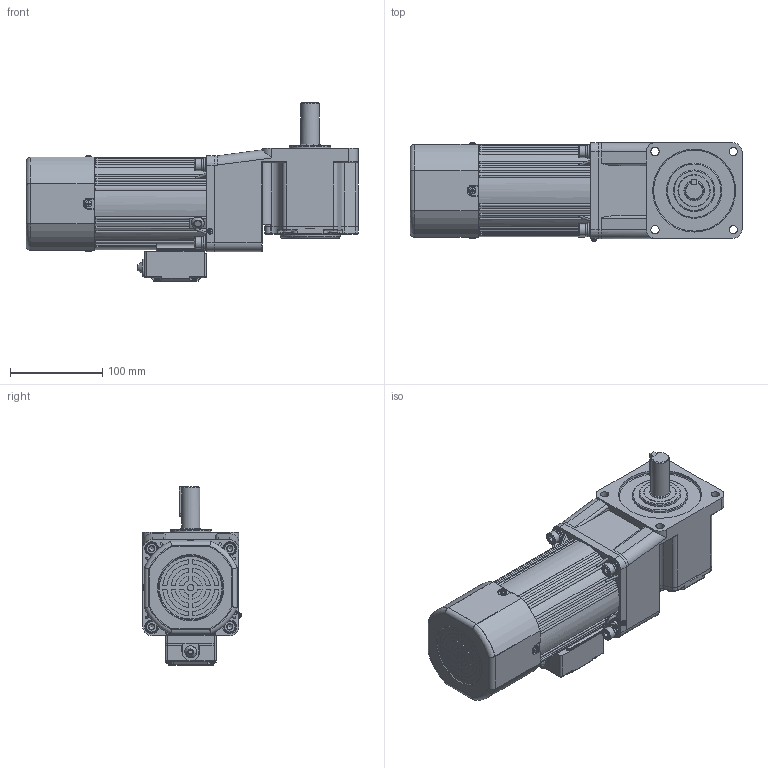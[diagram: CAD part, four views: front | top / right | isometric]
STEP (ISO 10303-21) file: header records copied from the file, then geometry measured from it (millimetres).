
FILE_DESCRIPTION(/* description */ (''),/* implementation_level */ '2;1');
FILE_NAME(/* name */ '100+直角中实-刹车调速风叶-160-250W 新版长款接线盒.stp',/* time_stamp */ '2025-04-07T20:04:43+08:00',/* author */ (''),/* organization */ (''),/* preprocessor_version */ 'ST-DEVELOPER v18.102',/* originating_system */ 'SIEMENS PLM Software NX 2027',/* authorisation */ '');
FILE_SCHEMA (('AP203_CONFIGURATION_CONTROLLED_3D_DESIGN_OF_MECHANICAL_PARTS_AND_ASSEMBLIES_MIM_LF { 1 0 10303 403 2 1 2}'));
Products named in the file (1): 100+直角中实-刹车调速风叶-160-250
W 新版_stp_objects
Bounding box: 360.5 x 106.83 x 193.5 mm (x, y, z)
Volume: 3502223.6 mm3; surface area: 470845 mm2
Topology: 26 solids, 26 shells, 2371 faces, 6156 edges, 3949 vertices
Faces by surface type: plane 1077, cylinder 768, bspline 223, torus 148, cone 111, sphere 44
Full cylindrical faces by diameter (mm): 2.2 x2, 2.5 x2, 2.6 x2, 2.7 x1, 2.9 x4, 3 x1, 3.2 x2, 3.3 x4, 3.5 x6, 3.6 x4, 4 x4, 4.2 x1, 4.55 x2, 4.8 x1, 5.1 x2, 5.15 x2, 5.6 x4, 6 x12, 6.8 x12, 7 x3, 7.5 x2, 7.76 x4, 8 x1, 8.4 x4, 9 x13, 9.3 x1, 9.5 x4, 10 x2, 13 x4, 14 x8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
Entity records: 73901 total; most frequent: CARTESIAN_POINT 18218, ORIENTED_EDGE 11402, DIRECTION 11118, EDGE_CURVE 5701, AXIS2_PLACEMENT_3D 4265, VERTEX_POINT 3807, EDGE_LOOP 2903, LINE 2588
